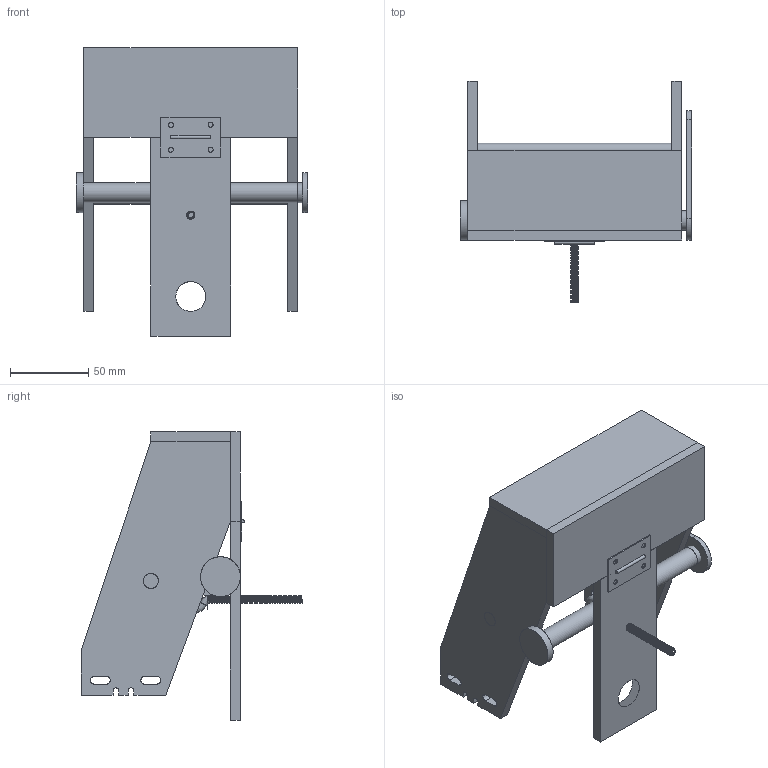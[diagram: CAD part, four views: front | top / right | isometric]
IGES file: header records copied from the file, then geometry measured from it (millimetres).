
Global section: file name: ACRYLIC .MCX; native system: MASTERCAMX4; preprocessor: 1; date: 110502.192003; units: inch
Bounding box: 147.62 x 141.49 x 184.15 mm (x, y, z)
Surface area: 114646.2 mm2 (no closed solid volume)
Topology: 0 solids, 0 shells, 181 faces, 19367 edges, 20332 vertices
Faces by surface type: bspline 181
